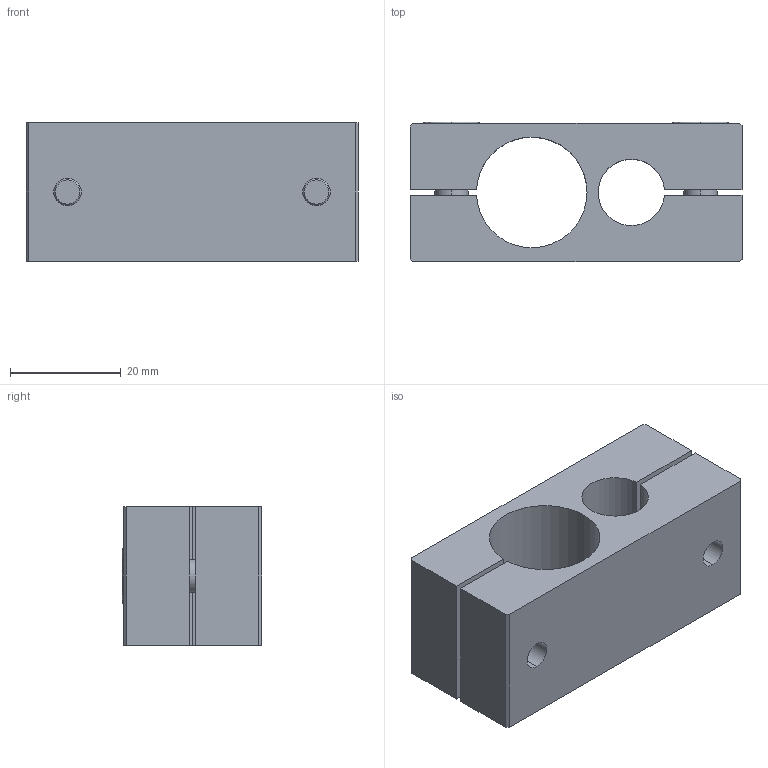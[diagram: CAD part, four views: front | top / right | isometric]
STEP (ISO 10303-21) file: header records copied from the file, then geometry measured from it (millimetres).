
FILE_DESCRIPTION (( 'STEP AP214' ), '1' );
FILE_NAME ('SMBP-2012T.STEP', '2022-12-30T08:52:33', ( 'Windows User' ), ( 'P R C' ), 'SwSTEP 2.0', 'SolidWorks 2018', '' );
FILE_SCHEMA (( 'AUTOMOTIVE_DESIGN' ));
Length unit declared in the file: millimetre
Products named in the file (1): SMBP-2012T
Bounding box: 60 x 25.2 x 25 mm (x, y, z)
Volume: 25586 mm3; surface area: 12395.5 mm2
Topology: 5 solids, 5 shells, 369 faces, 1059 edges, 702 vertices
Faces by surface type: plane 326, cylinder 31, cone 8, bspline 4
Entity records: 16352 total; most frequent: CARTESIAN_POINT 2215, DIRECTION 2141, ORIENTED_EDGE 2118, EDGE_CURVE 1059, AXIS2_PLACEMENT_3D 724, VERTEX_POINT 702, VECTOR 693, LINE 693
